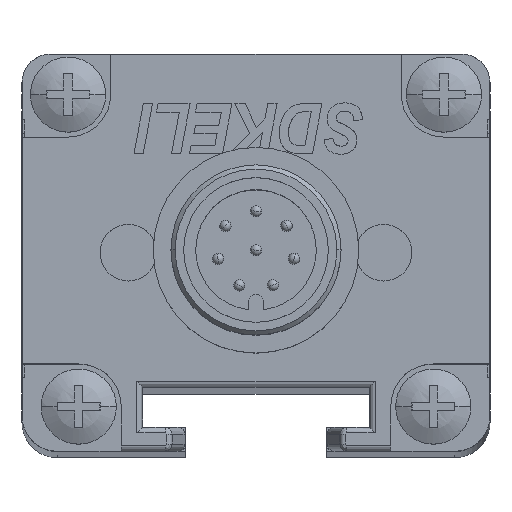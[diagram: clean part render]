
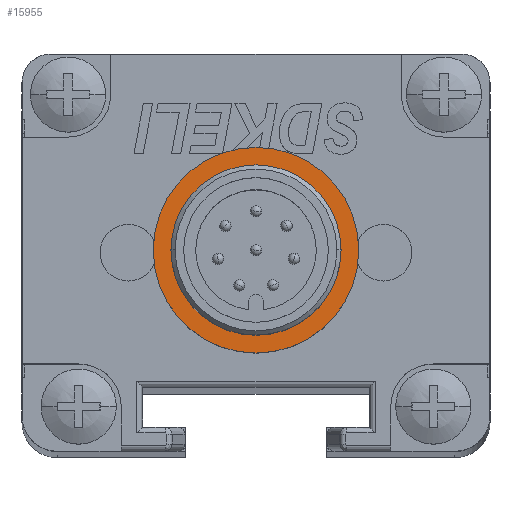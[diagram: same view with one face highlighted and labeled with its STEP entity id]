
A CAD part, top view. The second image highlights one B-rep face of the part: STEP entity #15955.
In plain terms, the highlighted planar face has unit normal (0, 0, 1) as drawn and (-1, 0, 0) by its records, which use the part's own axes.
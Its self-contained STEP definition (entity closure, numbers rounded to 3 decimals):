
#14724=CARTESIAN_POINT('',(-39.518,0.,0.));
#14725=DIRECTION('',(-1.,0.,0.));
#14726=DIRECTION('',(0.,1.,0.));
#14727=AXIS2_PLACEMENT_3D('',#14724,#14725,#14726);
#14729=CARTESIAN_POINT('',(-39.518,0.,0.));
#14730=DIRECTION('',(1.,0.,0.));
#14731=DIRECTION('',(0.,1.,0.));
#14732=AXIS2_PLACEMENT_3D('',#14729,#14730,#14731);
#14734=CARTESIAN_POINT('',(-39.518,0.,0.));
#14735=DIRECTION('',(1.,0.,0.));
#14736=DIRECTION('',(0.,1.,0.));
#14737=AXIS2_PLACEMENT_3D('',#14734,#14735,#14736);
#14747=CARTESIAN_POINT('',(-39.518,0.,0.));
#14748=DIRECTION('',(-1.,0.,0.));
#14749=DIRECTION('',(0.,1.,0.));
#14750=AXIS2_PLACEMENT_3D('',#14747,#14748,#14749);
#15599=CARTESIAN_POINT('',(-39.518,7.25,0.));
#15601=VERTEX_POINT('',#15599);
#15602=CARTESIAN_POINT('',(-39.518,6.,0.));
#15604=VERTEX_POINT('',#15602);
#15655=CARTESIAN_POINT('',(-39.518,-7.25,0.));
#15657=VERTEX_POINT('',#15655);
#15658=CARTESIAN_POINT('',(-39.518,-6.,0.));
#15660=VERTEX_POINT('',#15658);
#15940=CARTESIAN_POINT('',(-39.518,0.,0.));
#15941=DIRECTION('',(1.,0.,0.));
#15942=DIRECTION('',(0.,-1.,0.));
#15943=AXIS2_PLACEMENT_3D('',#15940,#15941,#15942);
#15944=PLANE('',#15943);
#15945=ORIENTED_EDGE('',*,*,#15933,.F.);
#15946=ORIENTED_EDGE('',*,*,#15922,.T.);
#15947=EDGE_LOOP('',(#15945,#15946));
#15948=FACE_OUTER_BOUND('',#15947,.F.);
#15950=ORIENTED_EDGE('',*,*,#15949,.F.);
#15952=ORIENTED_EDGE('',*,*,#15951,.T.);
#15953=EDGE_LOOP('',(#15950,#15952));
#15954=FACE_BOUND('',#15953,.F.);
#15955=ADVANCED_FACE('',(#15948,#15954),#15944,.F.);
#14728=CIRCLE('',#14727,7.25);
#14733=CIRCLE('',#14732,7.25);
#14738=CIRCLE('',#14737,6.);
#14751=CIRCLE('',#14750,6.);
#15922=EDGE_CURVE('',#15601,#15657,#14733,.T.);
#15933=EDGE_CURVE('',#15601,#15657,#14728,.T.);
#15949=EDGE_CURVE('',#15604,#15660,#14738,.T.);
#15951=EDGE_CURVE('',#15604,#15660,#14751,.T.);
